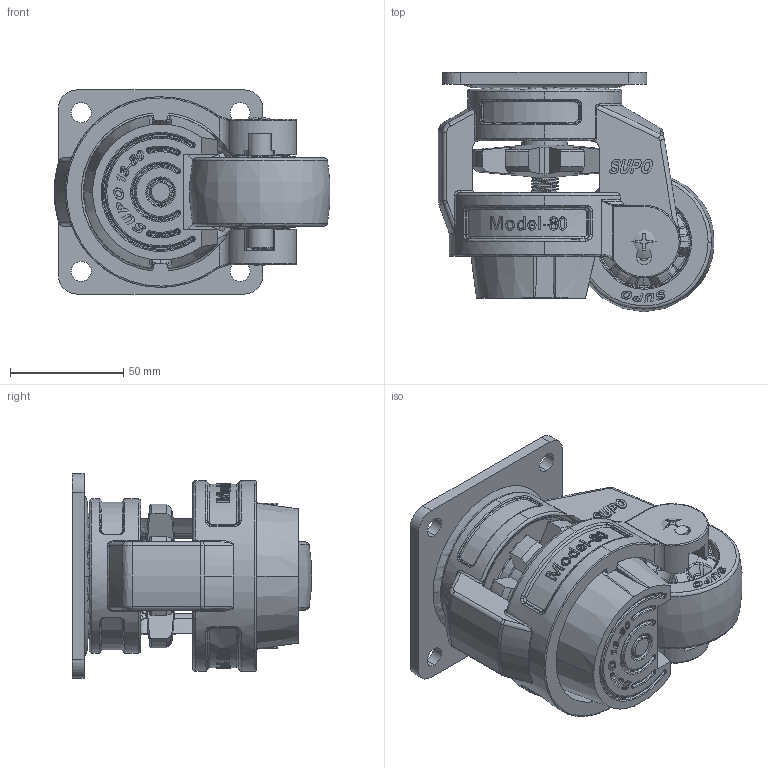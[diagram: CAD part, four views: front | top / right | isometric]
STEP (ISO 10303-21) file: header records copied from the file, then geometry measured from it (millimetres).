
FILE_DESCRIPTION (( 'STEP AP214' ), '1' );
FILE_NAME ('HT13-01-80F-643.STEP', '2025-10-01T09:40:32', ( '' ), ( '' ), 'SwSTEP 2.0', 'SolidWorks 2022', '' );
FILE_SCHEMA (( 'AUTOMOTIVE_DESIGN' ));
Length unit declared in the file: millimetre
Products named in the file (1): HT13-01-80F-643
Bounding box: 121.66 x 105.51 x 90 mm (x, y, z)
Surface area: 131586.6 mm2 (no closed solid volume)
Topology: 0 solids, 46 shells, 2776 faces, 7624 edges, 4913 vertices
Faces by surface type: bspline 1261, plane 1037, cylinder 368, cone 110
Entity records: 154018 total; most frequent: CARTESIAN_POINT 63394, ORIENTED_EDGE 14938, DIRECTION 8362, EDGE_CURVE 7471, VERTEX_POINT 4913, VECTOR 3550, LINE 3550, EDGE_LOOP 2931
